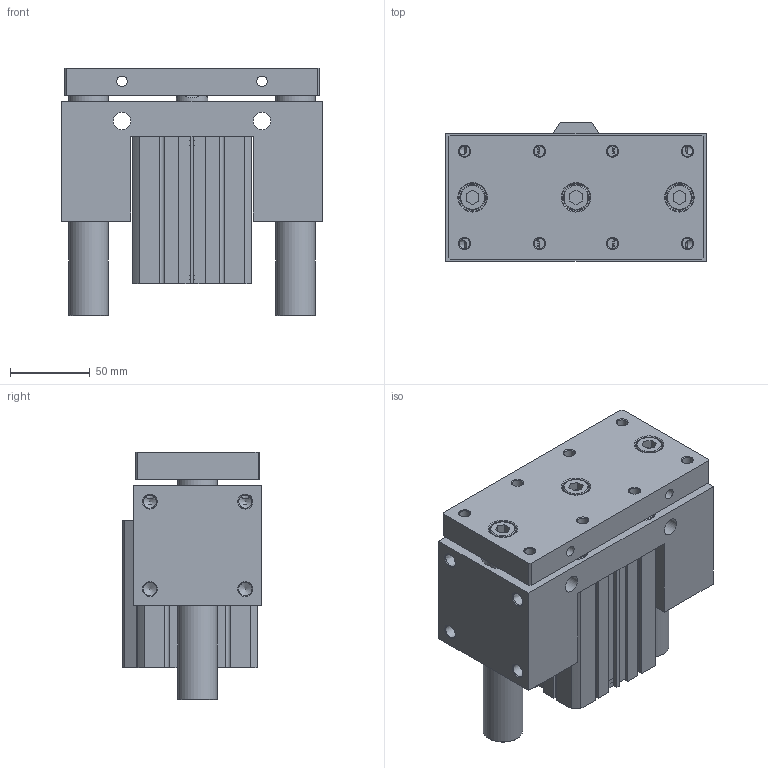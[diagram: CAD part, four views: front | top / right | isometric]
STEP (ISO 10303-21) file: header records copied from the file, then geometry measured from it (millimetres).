
FILE_DESCRIPTION((''),'2;1');
FILE_NAME('I:\3D電子目錄\氣缸\JCB\JCB\JCB63\JCB63x60.stp','2007-09-01T15:18:45',('Administrator'),(''),'Autodesk Inventor 11','Autodesk Inventor 11','');
FILE_SCHEMA(('AUTOMOTIVE_DESIGN { 1 0 10303 214 1 1 1 1 }'));
Length unit declared in the file: millimetre
Products named in the file (1): JCB63
Bounding box: 164 x 87 x 155.5 mm (x, y, z)
Volume: 1357648.4 mm3; surface area: 210634.9 mm2
Topology: 3 solids, 5 shells, 343 faces, 829 edges, 538 vertices
Faces by surface type: plane 186, cylinder 62, cone 47, bspline 40, torus 8
Full cylindrical faces by diameter (mm): 3 x2, 6.8 x4, 8.376 x4, 11 x8, 13 x4, 14 x4, 16 x3, 17.5 x3, 20 x1, 21 x1, 25 x2, 28 x2, 40 x1, 47 x1, 65 x4, 68 x2
Entity records: 10008 total; most frequent: CARTESIAN_POINT 2670, DIRECTION 1474, ORIENTED_EDGE 1320, EDGE_CURVE 660, EDGE_LOOP 554, AXIS2_PLACEMENT_3D 532, VERTEX_POINT 498, VECTOR 410
